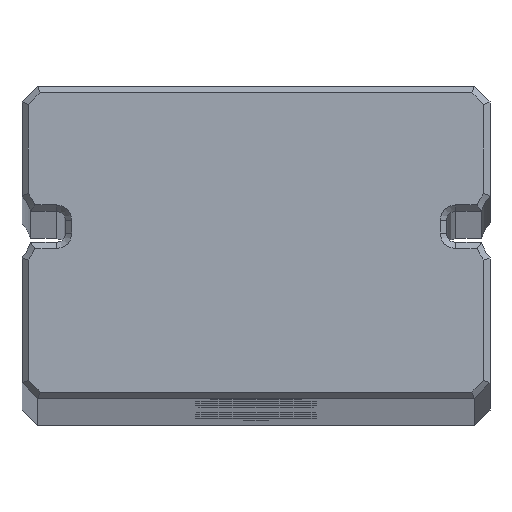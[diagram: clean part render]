
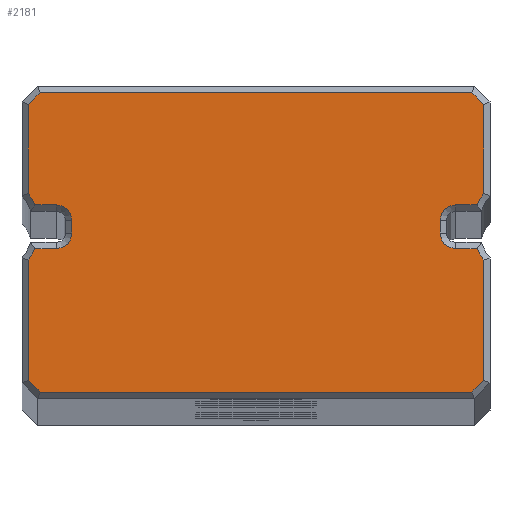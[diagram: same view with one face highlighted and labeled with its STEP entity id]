
A CAD part, top view. The second image highlights one B-rep face of the part: STEP entity #2181.
In plain terms, the highlighted planar face has unit normal (0, 0, 1).
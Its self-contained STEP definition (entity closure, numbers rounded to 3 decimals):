
#121=CIRCLE('',#2344,1.788);
#122=CIRCLE('',#2347,0.5);
#123=CIRCLE('',#2350,0.5);
#125=CIRCLE('',#2355,1.788);
#126=CIRCLE('',#2361,1.788);
#129=CIRCLE('',#2366,0.5);
#131=CIRCLE('',#2370,0.5);
#132=CIRCLE('',#2373,1.788);
#321=FACE_OUTER_BOUND('',#473,.T.);
#473=EDGE_LOOP('',(#1733,#1734,#1735,#1736,#1737,#1738,#1739,#1740,#1741,
#1742,#1743,#1744,#1745,#1746,#1747,#1748,#1749,#1750,#1751,#1752,#1753,
#1754,#1755,#1756));
#655=LINE('',#3485,#827);
#658=LINE('',#3497,#830);
#661=LINE('',#3505,#833);
#663=LINE('',#3512,#835);
#664=LINE('',#3520,#836);
#667=LINE('',#3540,#839);
#670=LINE('',#3546,#842);
#674=LINE('',#3554,#846);
#677=LINE('',#3558,#849);
#680=LINE('',#3573,#852);
#683=LINE('',#3584,#855);
#686=LINE('',#3594,#858);
#688=LINE('',#3609,#860);
#690=LINE('',#3613,#862);
#692=LINE('',#3617,#864);
#694=LINE('',#3620,#866);
#827=VECTOR('',#2747,10.);
#830=VECTOR('',#2756,10.);
#833=VECTOR('',#2765,10.);
#835=VECTOR('',#2773,10.);
#836=VECTOR('',#2776,10.);
#839=VECTOR('',#2787,10.);
#842=VECTOR('',#2792,10.);
#846=VECTOR('',#2798,10.);
#849=VECTOR('',#2803,10.);
#852=VECTOR('',#2814,10.);
#855=VECTOR('',#2825,10.);
#858=VECTOR('',#2836,10.);
#860=VECTOR('',#2844,10.);
#862=VECTOR('',#2848,10.);
#864=VECTOR('',#2852,10.);
#866=VECTOR('',#2856,10.);
#1004=VERTEX_POINT('',#3479);
#1005=VERTEX_POINT('',#3484);
#1006=VERTEX_POINT('',#3488);
#1007=VERTEX_POINT('',#3495);
#1008=VERTEX_POINT('',#3499);
#1009=VERTEX_POINT('',#3503);
#1010=VERTEX_POINT('',#3507);
#1011=VERTEX_POINT('',#3511);
#1012=VERTEX_POINT('',#3518);
#1013=VERTEX_POINT('',#3519);
#1017=VERTEX_POINT('',#3532);
#1018=VERTEX_POINT('',#3539);
#1020=VERTEX_POINT('',#3545);
#1023=VERTEX_POINT('',#3553);
#1024=VERTEX_POINT('',#3560);
#1027=VERTEX_POINT('',#3571);
#1029=VERTEX_POINT('',#3577);
#1031=VERTEX_POINT('',#3582);
#1033=VERTEX_POINT('',#3589);
#1034=VERTEX_POINT('',#3593);
#1035=VERTEX_POINT('',#3601);
#1036=VERTEX_POINT('',#3608);
#1037=VERTEX_POINT('',#3612);
#1038=VERTEX_POINT('',#3616);
#1228=EDGE_CURVE('',#1004,#1005,#655,.T.);
#1231=EDGE_CURVE('',#1006,#1004,#121,.T.);
#1233=EDGE_CURVE('',#1007,#1006,#658,.T.);
#1235=EDGE_CURVE('',#1008,#1007,#122,.T.);
#1237=EDGE_CURVE('',#1009,#1008,#661,.T.);
#1239=EDGE_CURVE('',#1010,#1009,#123,.T.);
#1240=EDGE_CURVE('',#1011,#1010,#663,.T.);
#1242=EDGE_CURVE('',#1012,#1013,#664,.T.);
#1248=EDGE_CURVE('',#1017,#1011,#125,.T.);
#1249=EDGE_CURVE('',#1013,#1018,#667,.T.);
#1252=EDGE_CURVE('',#1018,#1020,#670,.T.);
#1256=EDGE_CURVE('',#1020,#1023,#674,.T.);
#1259=EDGE_CURVE('',#1023,#1017,#677,.T.);
#1260=EDGE_CURVE('',#1024,#1012,#126,.T.);
#1265=EDGE_CURVE('',#1027,#1024,#680,.T.);
#1268=EDGE_CURVE('',#1029,#1027,#129,.T.);
#1270=EDGE_CURVE('',#1031,#1029,#683,.T.);
#1274=EDGE_CURVE('',#1033,#1031,#131,.T.);
#1275=EDGE_CURVE('',#1034,#1033,#686,.T.);
#1278=EDGE_CURVE('',#1035,#1034,#132,.T.);
#1280=EDGE_CURVE('',#1005,#1036,#688,.T.);
#1282=EDGE_CURVE('',#1037,#1035,#690,.T.);
#1284=EDGE_CURVE('',#1036,#1038,#692,.T.);
#1286=EDGE_CURVE('',#1038,#1037,#694,.T.);
#1733=ORIENTED_EDGE('',*,*,#1242,.F.);
#1734=ORIENTED_EDGE('',*,*,#1260,.F.);
#1735=ORIENTED_EDGE('',*,*,#1265,.F.);
#1736=ORIENTED_EDGE('',*,*,#1268,.F.);
#1737=ORIENTED_EDGE('',*,*,#1270,.F.);
#1738=ORIENTED_EDGE('',*,*,#1274,.F.);
#1739=ORIENTED_EDGE('',*,*,#1275,.F.);
#1740=ORIENTED_EDGE('',*,*,#1278,.F.);
#1741=ORIENTED_EDGE('',*,*,#1282,.F.);
#1742=ORIENTED_EDGE('',*,*,#1286,.F.);
#1743=ORIENTED_EDGE('',*,*,#1284,.F.);
#1744=ORIENTED_EDGE('',*,*,#1280,.F.);
#1745=ORIENTED_EDGE('',*,*,#1228,.F.);
#1746=ORIENTED_EDGE('',*,*,#1231,.F.);
#1747=ORIENTED_EDGE('',*,*,#1233,.F.);
#1748=ORIENTED_EDGE('',*,*,#1235,.F.);
#1749=ORIENTED_EDGE('',*,*,#1237,.F.);
#1750=ORIENTED_EDGE('',*,*,#1239,.F.);
#1751=ORIENTED_EDGE('',*,*,#1240,.F.);
#1752=ORIENTED_EDGE('',*,*,#1248,.F.);
#1753=ORIENTED_EDGE('',*,*,#1259,.F.);
#1754=ORIENTED_EDGE('',*,*,#1256,.F.);
#1755=ORIENTED_EDGE('',*,*,#1252,.F.);
#1756=ORIENTED_EDGE('',*,*,#1249,.F.);
#2095=PLANE('',#2385);
#2181=ADVANCED_FACE('',(#321),#2095,.T.);
#2344=AXIS2_PLACEMENT_3D('',#3493,#2751,#2752);
#2347=AXIS2_PLACEMENT_3D('',#3501,#2760,#2761);
#2350=AXIS2_PLACEMENT_3D('',#3509,#2769,#2770);
#2355=AXIS2_PLACEMENT_3D('',#3537,#2783,#2784);
#2361=AXIS2_PLACEMENT_3D('',#3561,#2806,#2807);
#2366=AXIS2_PLACEMENT_3D('',#3579,#2820,#2821);
#2370=AXIS2_PLACEMENT_3D('',#3591,#2832,#2833);
#2373=AXIS2_PLACEMENT_3D('',#3602,#2840,#2841);
#2385=AXIS2_PLACEMENT_3D('',#3635,#2878,#2879);
#2747=DIRECTION('',(0.,1.,0.));
#2751=DIRECTION('center_axis',(0.,0.,1.));
#2752=DIRECTION('ref_axis',(0.777,-0.63,0.));
#2756=DIRECTION('',(-1.,0.,0.));
#2760=DIRECTION('center_axis',(0.,0.,1.));
#2761=DIRECTION('ref_axis',(0.707,0.707,0.));
#2765=DIRECTION('',(0.,1.,0.));
#2769=DIRECTION('center_axis',(0.,0.,1.));
#2770=DIRECTION('ref_axis',(0.707,-0.707,0.));
#2773=DIRECTION('',(1.,0.,0.));
#2776=DIRECTION('',(0.,-1.,0.));
#2783=DIRECTION('center_axis',(0.,0.,1.));
#2784=DIRECTION('ref_axis',(0.777,-0.63,0.));
#2787=DIRECTION('',(-0.707,-0.707,0.));
#2792=DIRECTION('',(-1.,0.,0.));
#2798=DIRECTION('',(-0.707,0.707,0.));
#2803=DIRECTION('',(0.,1.,0.));
#2806=DIRECTION('center_axis',(0.,0.,1.));
#2807=DIRECTION('ref_axis',(-0.777,0.63,0.));
#2814=DIRECTION('',(1.,0.,0.));
#2820=DIRECTION('center_axis',(0.,0.,1.));
#2821=DIRECTION('ref_axis',(-0.707,-0.707,0.));
#2825=DIRECTION('',(0.,-1.,0.));
#2832=DIRECTION('center_axis',(0.,0.,1.));
#2833=DIRECTION('ref_axis',(-0.707,0.707,0.));
#2836=DIRECTION('',(-1.,0.,0.));
#2840=DIRECTION('center_axis',(0.,0.,1.));
#2841=DIRECTION('ref_axis',(-0.777,0.63,0.));
#2844=DIRECTION('',(0.707,0.707,0.));
#2848=DIRECTION('',(0.,-1.,0.));
#2852=DIRECTION('',(1.,0.,0.));
#2856=DIRECTION('',(0.707,-0.707,0.));
#2878=DIRECTION('center_axis',(0.,0.,1.));
#2879=DIRECTION('ref_axis',(1.,0.,0.));
#3479=CARTESIAN_POINT('',(-7.3,6.569,0.));
#3484=CARTESIAN_POINT('',(-7.3,9.417,0.));
#3485=CARTESIAN_POINT('',(-7.3,5.75,0.));
#3488=CARTESIAN_POINT('',(-7.088,6.2,0.));
#3493=CARTESIAN_POINT('Origin',(-8.733,5.5,0.));
#3495=CARTESIAN_POINT('',(-6.4,6.2,0.));
#3497=CARTESIAN_POINT('',(-3.05,6.2,0.));
#3499=CARTESIAN_POINT('',(-5.9,5.7,0.));
#3501=CARTESIAN_POINT('Origin',(-6.4,5.7,0.));
#3503=CARTESIAN_POINT('',(-5.9,5.3,0.));
#3505=CARTESIAN_POINT('',(-5.9,5.,0.));
#3507=CARTESIAN_POINT('',(-6.4,4.8,0.));
#3509=CARTESIAN_POINT('Origin',(-6.4,5.3,0.));
#3511=CARTESIAN_POINT('',(-7.088,4.8,0.));
#3512=CARTESIAN_POINT('',(-3.613,4.8,0.));
#3518=CARTESIAN_POINT('',(7.3,4.431,0.));
#3519=CARTESIAN_POINT('',(7.3,0.583,0.));
#3520=CARTESIAN_POINT('',(7.3,4.75,0.));
#3532=CARTESIAN_POINT('',(-7.3,4.431,0.));
#3537=CARTESIAN_POINT('Origin',(-8.733,5.5,0.));
#3539=CARTESIAN_POINT('',(6.917,0.2,0.));
#3540=CARTESIAN_POINT('',(6.484,-0.234,0.));
#3545=CARTESIAN_POINT('',(-6.917,0.2,0.));
#3546=CARTESIAN_POINT('',(3.75,0.2,0.));
#3553=CARTESIAN_POINT('',(-7.3,0.583,0.));
#3554=CARTESIAN_POINT('',(-6.484,-0.234,0.));
#3558=CARTESIAN_POINT('',(-7.3,2.5,0.));
#3560=CARTESIAN_POINT('',(7.088,4.8,0.));
#3561=CARTESIAN_POINT('Origin',(8.733,5.5,0.));
#3571=CARTESIAN_POINT('',(6.4,4.8,0.));
#3573=CARTESIAN_POINT('',(3.05,4.8,0.));
#3577=CARTESIAN_POINT('',(5.9,5.3,0.));
#3579=CARTESIAN_POINT('Origin',(6.4,5.3,0.));
#3582=CARTESIAN_POINT('',(5.9,5.7,0.));
#3584=CARTESIAN_POINT('',(5.9,5.5,0.));
#3589=CARTESIAN_POINT('',(6.4,6.2,0.));
#3591=CARTESIAN_POINT('Origin',(6.4,5.7,0.));
#3593=CARTESIAN_POINT('',(7.088,6.2,0.));
#3594=CARTESIAN_POINT('',(3.613,6.2,0.));
#3601=CARTESIAN_POINT('',(7.3,6.569,0.));
#3602=CARTESIAN_POINT('Origin',(8.733,5.5,0.));
#3608=CARTESIAN_POINT('',(-6.917,9.8,0.));
#3609=CARTESIAN_POINT('',(-6.484,10.234,0.));
#3612=CARTESIAN_POINT('',(7.3,9.417,0.));
#3613=CARTESIAN_POINT('',(7.3,7.5,0.));
#3616=CARTESIAN_POINT('',(6.917,9.8,0.));
#3617=CARTESIAN_POINT('',(-3.75,9.8,0.));
#3620=CARTESIAN_POINT('',(6.484,10.234,0.));
#3635=CARTESIAN_POINT('Origin',(0.,5.,0.));
